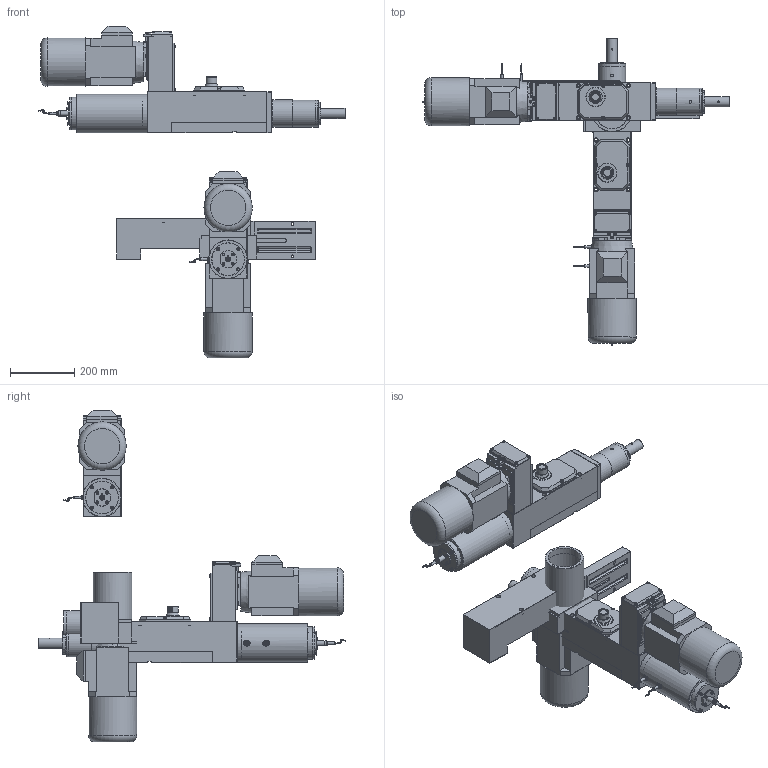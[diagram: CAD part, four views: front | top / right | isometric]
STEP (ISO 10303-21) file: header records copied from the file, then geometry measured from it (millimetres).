
FILE_DESCRIPTION( ( 'STEP AP203' ), '1' );
FILE_NAME( 'C:/Documents and Settings/Saverio/Desktop/disegni ironcad/unità serie 1/MC 112 A/MC 112 A_A05_P.stp', '2014-03-25T08:38:19', ( ' ' ), ( ' ' ), 'XStep 1.0', ' ', ' ' );
FILE_SCHEMA( ( 'CONFIG_CONTROL_DESIGN' ) );
Length unit declared in the file: metre
Products named in the file (57): Assem1; Assem2; Assem3; 1; 2; 3; 4; 5; 6; 7; 8; 9; 10; 11; 12; 13; 14; 15; 16; 17; 18; 19; 20; 21; 22; 23; 24; 25; 26; 27; 28; 29; 30; 31; 32; 33; 34; 35; 36; 37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
Bounding box: 953.75 x 955.55 x 1032.13 mm (x, y, z)
Volume: 41621287.5 mm3; surface area: 3847618.3 mm2
Topology: 162 solids, 162 shells, 3378 faces, 7584 edges, 4740 vertices
Faces by surface type: plane 2007, cylinder 771, cone 474, sphere 60, bspline 42, torus 24
Full cylindrical faces by diameter (mm): 3 x3, 4.134 x3, 4.5 x12, 5 x54, 5.5 x15, 6 x33, 6.5 x6, 6.75 x12, 6.9 x12, 7 x15, 8 x9, 8.385 x15, 8.5 x27, 9.87 x24, 12 x6, 13.5 x12, 16 x3, 18 x3, 20 x3, 23 x3, 28.9 x3, 32 x18, 41 x3, 50 x6, 52 x3, 52.5 x3, 53.1 x3, 54 x6, 54.4 x3, 60 x3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
Entity records: 34812 total; most frequent: CARTESIAN_POINT 8436, DIRECTION 4943, ORIENTED_EDGE 4476, EDGE_CURVE 2238, AXIS2_PLACEMENT_3D 1828, VERTEX_POINT 1536, EDGE_LOOP 1532, LINE 1287
